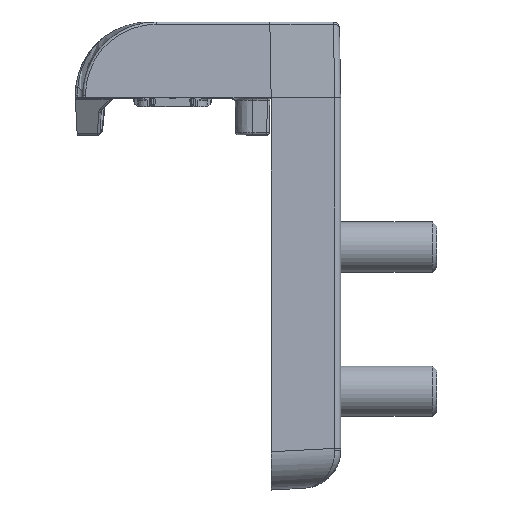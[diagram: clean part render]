
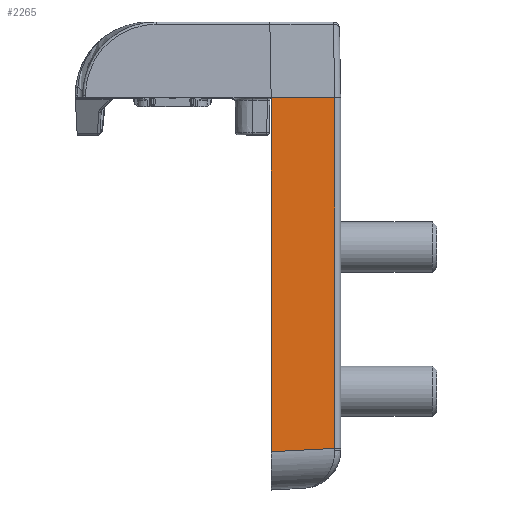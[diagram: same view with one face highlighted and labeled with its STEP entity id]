
A CAD part, top view. The second image highlights one B-rep face of the part: STEP entity #2265.
In plain terms, the highlighted planar face has unit normal (0.052, 0, 0.999).
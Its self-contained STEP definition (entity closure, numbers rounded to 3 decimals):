
#2265=ADVANCED_FACE('',(#3235),#2590,.T.);
#2590=PLANE('',#13572);
#3235=FACE_OUTER_BOUND('',#3986,.T.);
#3986=EDGE_LOOP('',(#7044,#7045,#7046,#7047));
#7044=ORIENTED_EDGE('',*,*,#10264,.F.);
#7045=ORIENTED_EDGE('',*,*,#10265,.T.);
#7046=ORIENTED_EDGE('',*,*,#10266,.T.);
#7047=ORIENTED_EDGE('',*,*,#10267,.T.);
#8522=VERTEX_POINT('',#23263);
#8523=VERTEX_POINT('',#23264);
#8524=VERTEX_POINT('',#23266);
#8525=VERTEX_POINT('',#23268);
#10264=EDGE_CURVE('',#8522,#8523,#11299,.T.);
#10265=EDGE_CURVE('',#8522,#8524,#11300,.T.);
#10266=EDGE_CURVE('',#8524,#8525,#11301,.T.);
#10267=EDGE_CURVE('',#8525,#8523,#11302,.T.);
#11299=LINE('',#23262,#12243);
#11300=LINE('',#23265,#12244);
#11301=LINE('',#23267,#12245);
#11302=LINE('',#23269,#12246);
#12243=VECTOR('',#16910,1.);
#12244=VECTOR('',#16911,1.);
#12245=VECTOR('',#16912,1.);
#12246=VECTOR('',#16913,1.);
#13572=AXIS2_PLACEMENT_3D('',#23270,#16914,#16915);
#16910=DIRECTION('',(0.,1.,0.));
#16911=DIRECTION('',(0.997,0.052,-0.052));
#16912=DIRECTION('',(0.,1.,0.));
#16913=DIRECTION('',(-0.999,0.,0.052));
#16914=DIRECTION('',(0.052,0.,0.999));
#16915=DIRECTION('',(0.,-1.,0.));
#23262=CARTESIAN_POINT('',(61.612,84.384,53.973));
#23263=CARTESIAN_POINT('',(61.612,91.38,53.973));
#23264=CARTESIAN_POINT('',(61.612,119.384,53.973));
#23265=CARTESIAN_POINT('',(66.724,91.648,53.705));
#23266=CARTESIAN_POINT('',(66.638,91.643,53.709));
#23267=CARTESIAN_POINT('',(66.638,84.384,53.709));
#23268=CARTESIAN_POINT('',(66.638,119.384,53.709));
#23269=CARTESIAN_POINT('',(67.104,119.384,53.685));
#23270=CARTESIAN_POINT('',(67.104,84.384,53.685));
